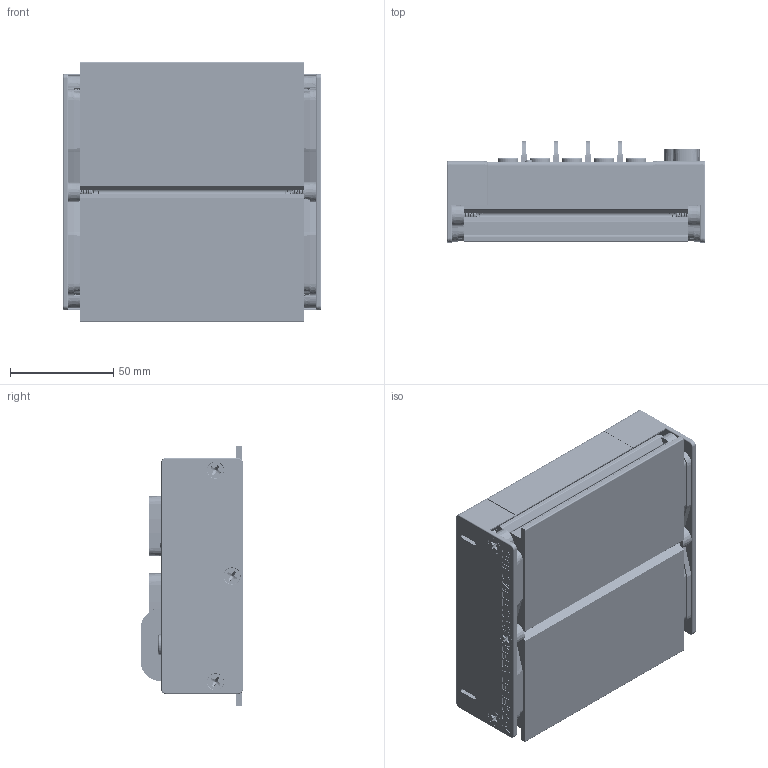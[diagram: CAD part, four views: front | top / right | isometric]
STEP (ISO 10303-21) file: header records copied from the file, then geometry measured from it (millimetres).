
FILE_DESCRIPTION (( 'STEP AP214' ), '1' );
FILE_NAME ('BAC 2000 with straight headers.STEP', '2018-11-29T15:42:29', ( '' ), ( '' ), 'SwSTEP 2.0', 'SolidWorks 2018', '' );
FILE_SCHEMA (( 'AUTOMOTIVE_DESIGN' ));
Length unit declared in the file: millimetre
Products named in the file (17): 84-000048_180 g; 757571181_16-PIN; 2018-05-04 light pipe for controller_80-000577; 20-001177_20-001282; 10-000573_16-000160; 757571181_6-PIN; 20-001172_20-001294; 20-000662_20-001254; BAC 2000 with straight headers; 16-000157_16-000157; 2018-07-04 bac2000 potting cover_20-001253; 20-001173_20-001295; 2018-07-11 90273A146_ZINC-PLATED STL FLAT HEAD PHIL MACHINE SCREW_80-000608; 2017-07-28 bac8000 extrusion_20-001258-2A; 84-000056_84-000056; 84-000049_45 g; Power Board, BAC2000_straight headers
Assembly tree (22 placements, depth 4):
  84-000048_180 g
  BAC 2000 with straight headers
    2017-07-28 bac8000 extrusion_20-001258-2A
    10-000573_16-000160
      Power Board, BAC2000_straight headers
        20-000662_20-001254  x5
        757571181_6-PIN
        757571181_16-PIN
    20-001172_20-001294
    20-001173_20-001295
    2018-07-04 bac2000 potting cover_20-001253
    20-001177_20-001282  x2
    2018-05-04 light pipe for controller_80-000577
    2018-07-11 90273A146_ZINC-PLATED STL FLAT HEAD PHIL MACHINE SCREW_80-000608  x6
  16-000157_16-000157
  84-000056_84-000056
  84-000049_45 g
Bounding box: 125.02 x 49.2 x 126 mm (x, y, z)
Volume: 237870.5 mm3; surface area: 144444 mm2
Topology: 20 solids, 20 shells, 5899 faces, 16642 edges, 11064 vertices
Faces by surface type: plane 3783, bspline 852, cylinder 846, cone 342, torus 72, sphere 4
Entity records: 297742 total; most frequent: CARTESIAN_POINT 169964, ORIENTED_EDGE 29048, DIRECTION 22029, EDGE_CURVE 14524, VECTOR 10917, LINE 10917, VERTEX_POINT 9666, EDGE_LOOP 5564
